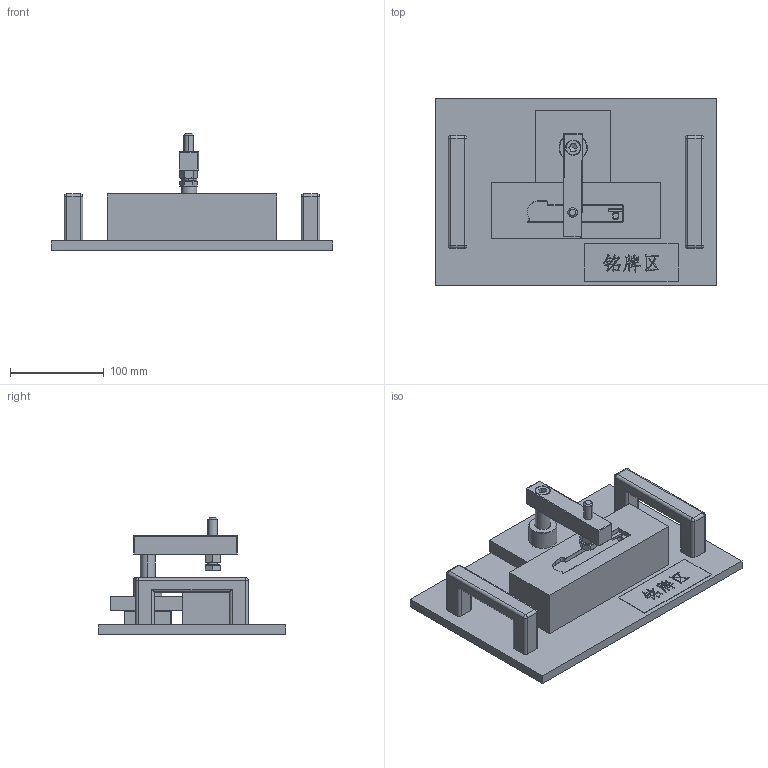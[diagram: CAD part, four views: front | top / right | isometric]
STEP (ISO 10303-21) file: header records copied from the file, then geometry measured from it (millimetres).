
FILE_DESCRIPTION(('CATIA V5 STEP Exchange'),'2;1');
FILE_NAME('D:\7--陈兴旺\气阀固定轴和固定支架\轻卡气阀阀杆固定支架装配工装\changzhouzhuangpei.stp','2024-08-26T03:00:40+00:00',('none'),('none'),'CATIA Version 5 Release 20 GA (IN-10)','CATIA V5 STEP AP214','none');
FILE_SCHEMA(('AUTOMOTIVE_DESIGN { 1 0 10303 214 1 1 1 1 }'));
Products named in the file (10): 产品2; Part1; part14; Part14; changzhouyatou; ISO 4032 NUT M10 STEEL GRADE A HEXAGON; ISO 4762 SCREW M10x30 STEEL HEXAGON SOCKET HEAD CAP; ISO 4014 BOLT M10x50 STEEL GRADE A HEXAGON HEAD; ISO 4762 SCREW M6x40 STEEL HEXAGON SOCKET HEAD CAP; ISO 4032 NUT M6 STEEL GRADE A HEXAGON
Assembly tree (15 placements, depth 2):
  产品2
    Part1
    part14
    Part14
    changzhouyatou
    ISO 4032 NUT M10 STEEL GRADE A HEXAGON
    ISO 4762 SCREW M10x30 STEEL HEXAGON SOCKET HEAD CAP
    ISO 4014 BOLT M10x50 STEEL GRADE A HEXAGON HEAD
    ISO 4762 SCREW M6x40 STEEL HEXAGON SOCKET HEAD CAP  x4
    ISO 4032 NUT M6 STEEL GRADE A HEXAGON  x4
Bounding box: 300 x 200 x 124.15 mm (x, y, z)
Volume: 1466258 mm3; surface area: 229594.3 mm2
Topology: 15 solids, 15 shells, 2051 faces, 5786 edges, 3765 vertices
Faces by surface type: plane 1707, cylinder 179, torus 79, cone 48, sphere 33, bspline 5
Entity records: 61174 total; most frequent: CARTESIAN_POINT 11712, ORIENTED_EDGE 10832, DIRECTION 9095, EDGE_CURVE 5416, VECTOR 4936, LINE 4936, VERTEX_POINT 3549, AXIS2_PLACEMENT_3D 2279
